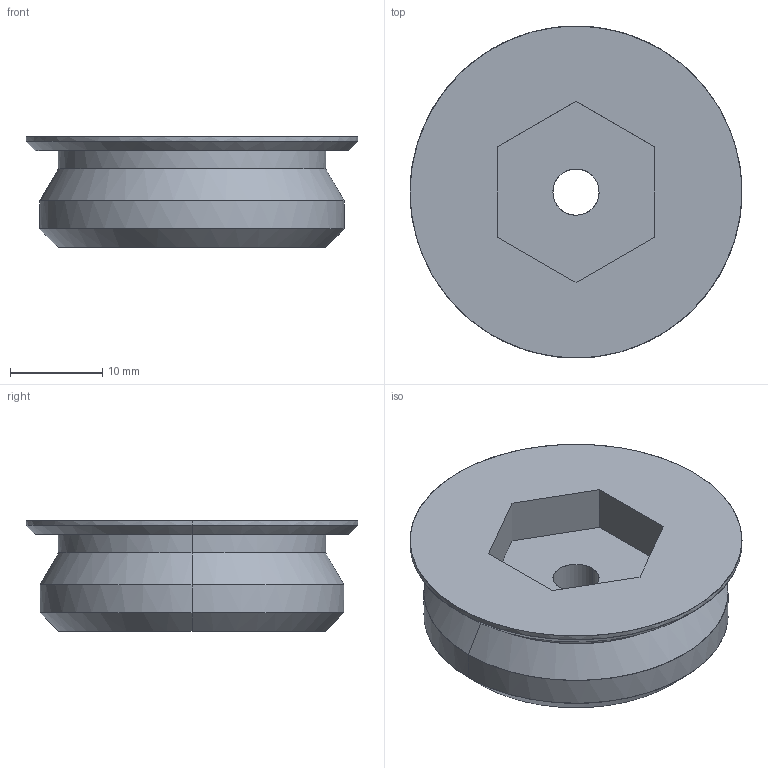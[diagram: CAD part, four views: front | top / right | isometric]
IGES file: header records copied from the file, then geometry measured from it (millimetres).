
Global section: file name: E:\UnigraphicsGraphicData\MISUMI_PRESS-PARTS\IGES\3d_mswzsh33-12_00508_r00.igs; native system: NX V5.0; preprocessor: UGS NX IGES V5.0; author: MISUMI; date: 20110105.161532; units: millimetre
Bounding box: 36 x 36 x 12 mm (x, y, z)
Surface area: 3665.2 mm2 (no closed solid volume)
Topology: 0 solids, 0 shells, 24 faces, 172 edges, 172 vertices
Faces by surface type: bspline 24
